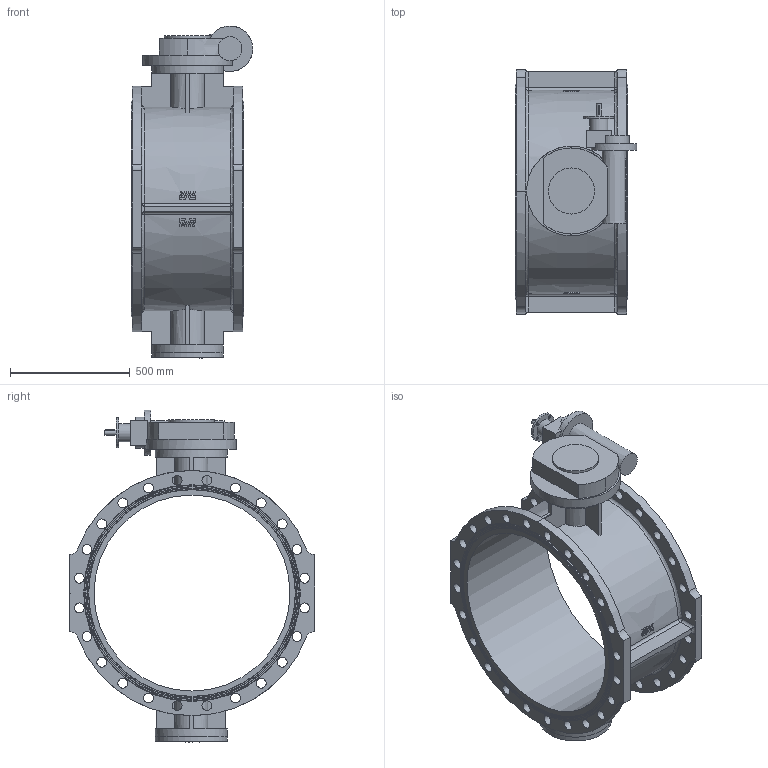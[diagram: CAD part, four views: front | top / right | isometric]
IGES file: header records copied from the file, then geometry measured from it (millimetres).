
Start section: SolidWorks IGES file using analytic representation for surfaces
Global section: file name: \\avksan2\techshare\PBM outline export from Enovia\O_756_102_DN800_1XX_AA0_igs.igs; native system: SolidWorks 2012; preprocessor: SolidWorks 2012; author: pbm; date: 160309.130930; units: millimetre
Bounding box: 507.8 x 1025 x 1387.5 mm (x, y, z)
Surface area: 4844179.1 mm2 (no closed solid volume)
Topology: 0 solids, 0 shells, 616 faces, 3432 edges, 3284 vertices
Faces by surface type: bspline 415, revolution 201
